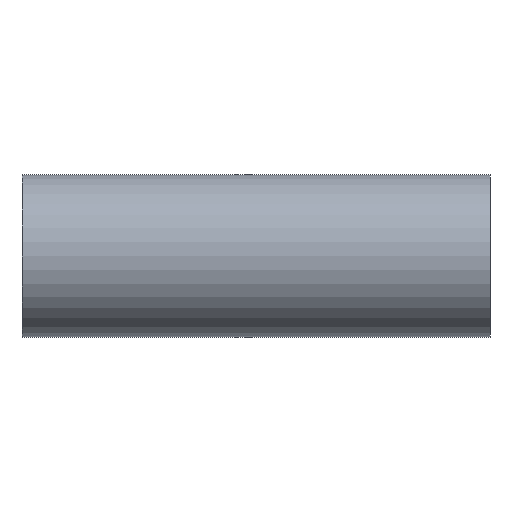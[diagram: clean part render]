
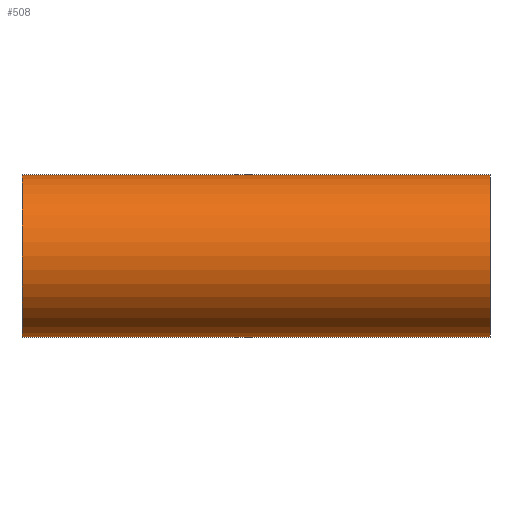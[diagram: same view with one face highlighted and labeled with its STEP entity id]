
A CAD part, front view. The second image highlights one B-rep face of the part: STEP entity #508.
In plain terms, the highlighted cylindrical face has radius 25.4 mm (diameter 50.8 mm), a partial arc.
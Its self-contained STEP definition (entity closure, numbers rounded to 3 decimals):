
#3 = DIRECTION ( 'NONE',  ( 0., 0., -1. ) ) ;
#6 = VECTOR ( 'NONE', #261, 1000. ) ;
#17 = LINE ( 'NONE', #363, #28 ) ;
#28 = VECTOR ( 'NONE', #188, 1000. ) ;
#38 = AXIS2_PLACEMENT_3D ( 'NONE', #563, #544, #50 ) ;
#41 = VERTEX_POINT ( 'NONE', #585 ) ;
#50 = DIRECTION ( 'NONE',  ( 0., 0., -1. ) ) ;
#53 = DIRECTION ( 'NONE',  ( -1., 0., 0. ) ) ;
#64 = EDGE_CURVE ( 'NONE', #270, #41, #275, .T. ) ;
#68 = ORIENTED_EDGE ( 'NONE', *, *, #64, .T. ) ;
#81 = CARTESIAN_POINT ( 'NONE',  ( -73., 0., 25.4 ) ) ;
#91 = CIRCLE ( 'NONE', #38, 25.4 ) ;
#107 = DIRECTION ( 'NONE',  ( 0., 0., -1. ) ) ;
#122 = ORIENTED_EDGE ( 'NONE', *, *, #520, .F. ) ;
#162 = CARTESIAN_POINT ( 'NONE',  ( 73., 0., -25.4 ) ) ;
#188 = DIRECTION ( 'NONE',  ( 1., 0., 0. ) ) ;
#220 = ORIENTED_EDGE ( 'NONE', *, *, #246, .T. ) ;
#246 = EDGE_CURVE ( 'NONE', #380, #270, #375, .T. ) ;
#247 = FACE_OUTER_BOUND ( 'NONE', #262, .T. ) ;
#253 = ORIENTED_EDGE ( 'NONE', *, *, #584, .T. ) ;
#257 = AXIS2_PLACEMENT_3D ( 'NONE', #269, #306, #107 ) ;
#261 = DIRECTION ( 'NONE',  ( 1., 0., 0. ) ) ;
#262 = EDGE_LOOP ( 'NONE', ( #122, #253, #220, #68 ) ) ;
#269 = CARTESIAN_POINT ( 'NONE',  ( -73., 0., 0. ) ) ;
#270 = VERTEX_POINT ( 'NONE', #162 ) ;
#275 = CIRCLE ( 'NONE', #506, 25.4 ) ;
#306 = DIRECTION ( 'NONE',  ( 1., 0., 0. ) ) ;
#363 = CARTESIAN_POINT ( 'NONE',  ( -73., 0., 25.4 ) ) ;
#365 = CYLINDRICAL_SURFACE ( 'NONE', #257, 25.4 ) ;
#375 = LINE ( 'NONE', #542, #6 ) ;
#380 = VERTEX_POINT ( 'NONE', #552 ) ;
#432 = VERTEX_POINT ( 'NONE', #81 ) ;
#488 = CARTESIAN_POINT ( 'NONE',  ( 73., 0., 0. ) ) ;
#506 = AXIS2_PLACEMENT_3D ( 'NONE', #488, #53, #3 ) ;
#508 = ADVANCED_FACE ( 'NONE', ( #247 ), #365, .T. ) ;
#520 = EDGE_CURVE ( 'NONE', #432, #41, #17, .T. ) ;
#542 = CARTESIAN_POINT ( 'NONE',  ( -73., 0., -25.4 ) ) ;
#544 = DIRECTION ( 'NONE',  ( 1., 0., 0. ) ) ;
#552 = CARTESIAN_POINT ( 'NONE',  ( -73., 0., -25.4 ) ) ;
#563 = CARTESIAN_POINT ( 'NONE',  ( -73., 0., 0. ) ) ;
#584 = EDGE_CURVE ( 'NONE', #432, #380, #91, .T. ) ;
#585 = CARTESIAN_POINT ( 'NONE',  ( 73., 0., 25.4 ) ) ;
